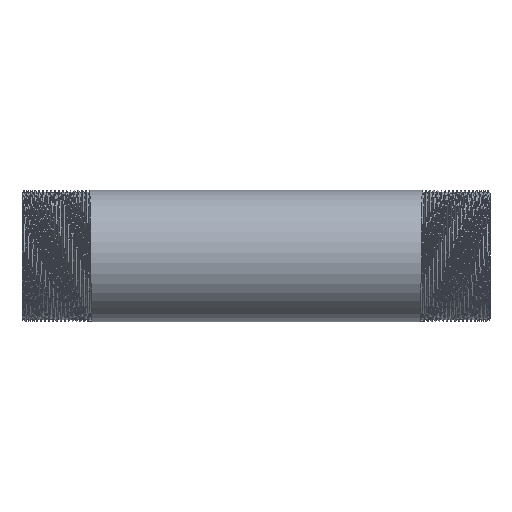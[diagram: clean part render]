
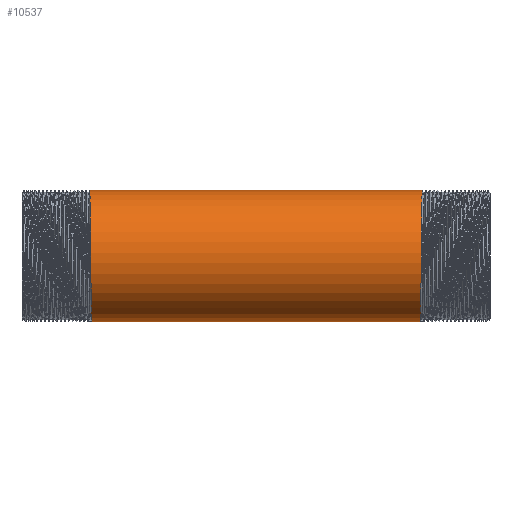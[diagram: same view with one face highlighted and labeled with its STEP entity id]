
A CAD part, front view. The second image highlights one B-rep face of the part: STEP entity #10537.
In plain terms, the highlighted cylindrical face has radius 16.85 mm (diameter 33.7 mm), a partial arc.
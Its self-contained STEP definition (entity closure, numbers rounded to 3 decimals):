
#40 = CARTESIAN_POINT ( 'NONE',  ( 42.375, -16.85, 0. ) ) ;
#220 = CARTESIAN_POINT ( 'NONE',  ( -149.494, 0., 16.85 ) ) ;
#322 = ORIENTED_EDGE ( 'NONE', *, *, #4527, .F. ) ;
#428 = DIRECTION ( 'NONE',  ( -1., 0., 0. ) ) ;
#1051 = CARTESIAN_POINT ( 'NONE',  ( 42.563, -6.979, 16.85 ) ) ;
#1163 = EDGE_LOOP ( 'NONE', ( #5722, #14691, #9101, #322 ) ) ;
#1280 = AXIS2_PLACEMENT_3D ( 'NONE', #11386, #428, #11231 ) ;
#1872 = CARTESIAN_POINT ( 'NONE',  ( 42.125, 0., -16.85 ) ) ;
#1928 = CARTESIAN_POINT ( 'NONE',  ( -42.375, -16.85, 0. ) ) ;
#2009 = CARTESIAN_POINT ( 'NONE',  ( -42.313, -16.85, -6.979 ) ) ;
#2086 = CARTESIAN_POINT ( 'NONE',  ( -42.563, -6.979, 16.85 ) ) ;
#2380 = CARTESIAN_POINT ( 'NONE',  ( 42.625, 0., 16.85 ) ) ;
#2921 = DIRECTION ( 'NONE',  ( -1., 0., 0. ) ) ;
#3168 = CYLINDRICAL_SURFACE ( 'NONE', #1280, 16.85 ) ;
#3252 = EDGE_CURVE ( 'NONE', #15192, #3283, #7888, .T. ) ;
#3283 = VERTEX_POINT ( 'NONE', #6734 ) ;
#4045 = CARTESIAN_POINT ( 'NONE',  ( 42.125, 0., -16.85 ) ) ;
#4096 = LINE ( 'NONE', #10124, #7370 ) ;
#4527 = EDGE_CURVE ( 'NONE', #13936, #10361, #15196, .T. ) ;
#5404 = CARTESIAN_POINT ( 'NONE',  ( -42.625, 0., 16.85 ) ) ;
#5722 = ORIENTED_EDGE ( 'NONE', *, *, #13500, .F. ) ;
#6340 = LINE ( 'NONE', #220, #8599 ) ;
#6634 = CARTESIAN_POINT ( 'NONE',  ( -42.125, 0., -16.85 ) ) ;
#6669 = CARTESIAN_POINT ( 'NONE',  ( -42.125, 0., -16.85 ) ) ;
#6734 = CARTESIAN_POINT ( 'NONE',  ( 42.625, 0., 16.85 ) ) ;
#7370 = VECTOR ( 'NONE', #2921, 1000. ) ;
#7888 =( BOUNDED_CURVE ( )  B_SPLINE_CURVE ( 2, ( #1872, #9511, #12956, #8341, #40, #8256, #10604, #1051, #2380 ),
 .UNSPECIFIED., .F., .F. ) 
 B_SPLINE_CURVE_WITH_KNOTS ( ( 3, 2, 2, 2, 3 ),
 ( 0., 0.006, 0.011, 0.017, 0.023 ),
 .UNSPECIFIED. ) 
 CURVE ( )  GEOMETRIC_REPRESENTATION_ITEM ( )  RATIONAL_B_SPLINE_CURVE ( ( 1., 0.924, 1., 0.924, 1., 0.924, 1., 0.924, 1. ) ) 
 REPRESENTATION_ITEM ( '' )  );
#8256 = CARTESIAN_POINT ( 'NONE',  ( 42.438, -16.85, 6.979 ) ) ;
#8341 = CARTESIAN_POINT ( 'NONE',  ( 42.313, -16.85, -6.979 ) ) ;
#8599 = VECTOR ( 'NONE', #13369, 1000. ) ;
#9101 = ORIENTED_EDGE ( 'NONE', *, *, #13134, .T. ) ;
#9141 = CARTESIAN_POINT ( 'NONE',  ( -42.438, -16.85, 6.979 ) ) ;
#9212 = CARTESIAN_POINT ( 'NONE',  ( -42.625, 0., 16.85 ) ) ;
#9511 = CARTESIAN_POINT ( 'NONE',  ( 42.188, -6.979, -16.85 ) ) ;
#10124 = CARTESIAN_POINT ( 'NONE',  ( -149.494, 0., -16.85 ) ) ;
#10361 = VERTEX_POINT ( 'NONE', #5404 ) ;
#10537 = ADVANCED_FACE ( 'NONE', ( #11307 ), #3168, .T. ) ;
#10604 = CARTESIAN_POINT ( 'NONE',  ( 42.5, -11.915, 11.915 ) ) ;
#11231 = DIRECTION ( 'NONE',  ( 0., 0., 1. ) ) ;
#11307 = FACE_OUTER_BOUND ( 'NONE', #1163, .T. ) ;
#11386 = CARTESIAN_POINT ( 'NONE',  ( -149.494, 0., 0. ) ) ;
#11623 = CARTESIAN_POINT ( 'NONE',  ( -42.25, -11.915, -11.915 ) ) ;
#12736 = CARTESIAN_POINT ( 'NONE',  ( -42.188, -6.979, -16.85 ) ) ;
#12956 = CARTESIAN_POINT ( 'NONE',  ( 42.25, -11.915, -11.915 ) ) ;
#13134 = EDGE_CURVE ( 'NONE', #3283, #10361, #6340, .T. ) ;
#13369 = DIRECTION ( 'NONE',  ( -1., 0., 0. ) ) ;
#13500 = EDGE_CURVE ( 'NONE', #15192, #13936, #4096, .T. ) ;
#13936 = VERTEX_POINT ( 'NONE', #6669 ) ;
#14691 = ORIENTED_EDGE ( 'NONE', *, *, #3252, .T. ) ;
#15006 = CARTESIAN_POINT ( 'NONE',  ( -42.5, -11.915, 11.915 ) ) ;
#15192 = VERTEX_POINT ( 'NONE', #4045 ) ;
#15196 =( BOUNDED_CURVE ( )  B_SPLINE_CURVE ( 2, ( #6634, #12736, #11623, #2009, #1928, #9141, #15006, #2086, #9212 ),
 .UNSPECIFIED., .F., .T. ) 
 B_SPLINE_CURVE_WITH_KNOTS ( ( 3, 2, 2, 2, 3 ),
 ( 0., 0.006, 0.011, 0.017, 0.023 ),
 .UNSPECIFIED. ) 
 CURVE ( )  GEOMETRIC_REPRESENTATION_ITEM ( )  RATIONAL_B_SPLINE_CURVE ( ( 1., 0.924, 1., 0.924, 1., 0.924, 1., 0.924, 1. ) ) 
 REPRESENTATION_ITEM ( '' )  );
